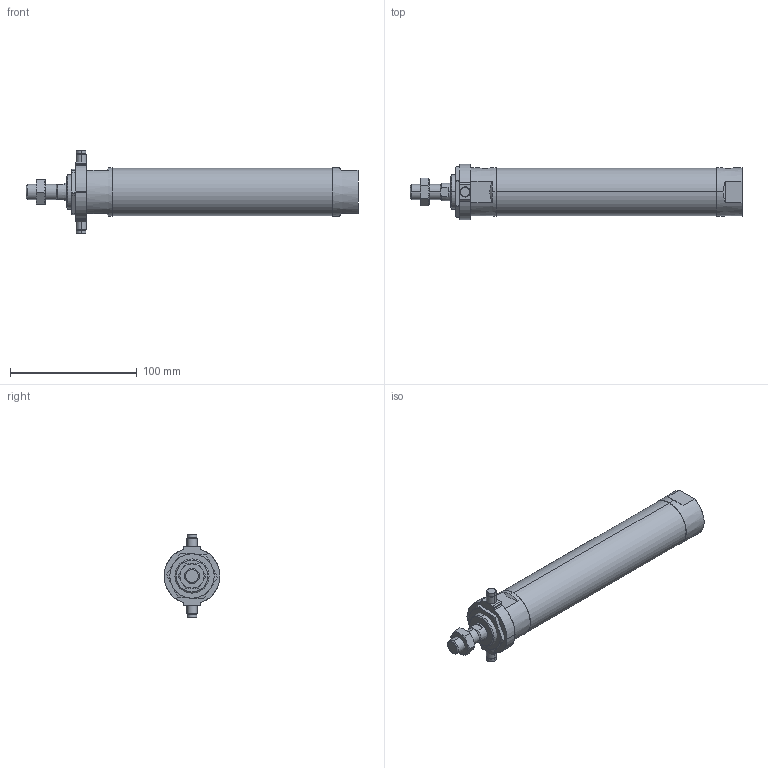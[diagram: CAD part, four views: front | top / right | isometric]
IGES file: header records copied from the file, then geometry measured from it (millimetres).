
Start section: SolidWorks IGES file using analytic representation for surfaces
Global section: file name: C:\Users\Toshiba\Desktop\JGND2-32-125-T.IGS; native system: SolidWorks 2014; preprocessor: SolidWorks 2014; author: Toshiba; date: 160804.105354; units: millimetre
Bounding box: 262 x 44 x 66 mm (x, y, z)
Surface area: 38650.1 mm2 (no closed solid volume)
Topology: 0 solids, 0 shells, 128 faces, 2076 edges, 2072 vertices
Faces by surface type: bspline 66, revolution 62
